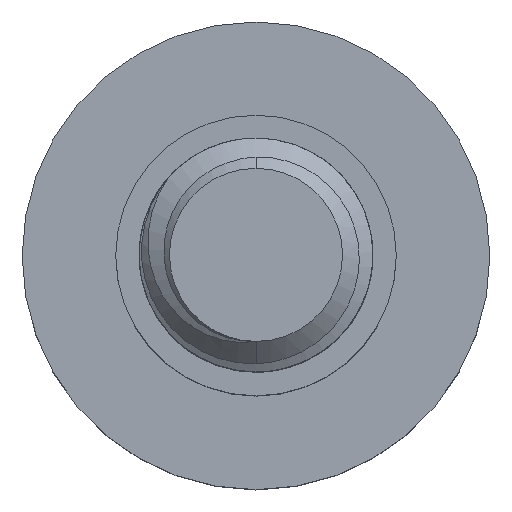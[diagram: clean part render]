
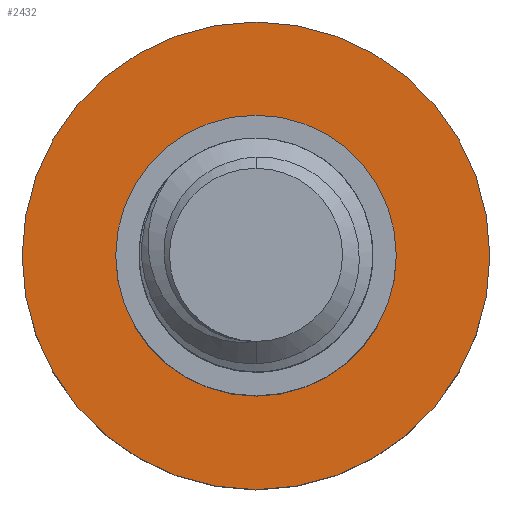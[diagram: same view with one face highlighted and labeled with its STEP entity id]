
A CAD part, top view. The second image highlights one B-rep face of the part: STEP entity #2432.
In plain terms, the highlighted planar face has unit normal (0, 0, 1).
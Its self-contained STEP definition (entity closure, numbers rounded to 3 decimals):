
#43 = CARTESIAN_POINT ( 'NONE',  ( 0., 0., -8. ) ) ;
#62 = DIRECTION ( 'NONE',  ( -1., 0., 0. ) ) ;
#117 = ORIENTED_EDGE ( 'NONE', *, *, #458, .T. ) ;
#345 = VERTEX_POINT ( 'NONE', #2120 ) ;
#349 = DIRECTION ( 'NONE',  ( 0., 0., -1. ) ) ;
#353 = DIRECTION ( 'NONE',  ( 0., 0., -1. ) ) ;
#388 = DIRECTION ( 'NONE',  ( 0., 0., -1. ) ) ;
#458 = EDGE_CURVE ( 'NONE', #345, #701, #1857, .T. ) ;
#584 = FACE_BOUND ( 'NONE', #3082, .T. ) ;
#589 = CARTESIAN_POINT ( 'NONE',  ( 0., 0., -8. ) ) ;
#701 = VERTEX_POINT ( 'NONE', #2311 ) ;
#764 = AXIS2_PLACEMENT_3D ( 'NONE', #1750, #388, #2571 ) ;
#843 = VERTEX_POINT ( 'NONE', #3175 ) ;
#867 = DIRECTION ( 'NONE',  ( -1., 0., 0. ) ) ;
#957 = CARTESIAN_POINT ( 'NONE',  ( 0., 0., -8. ) ) ;
#995 = DIRECTION ( 'NONE',  ( 0., 0., -1. ) ) ;
#1115 = ORIENTED_EDGE ( 'NONE', *, *, #2868, .F. ) ;
#1167 = VERTEX_POINT ( 'NONE', #1597 ) ;
#1188 = DIRECTION ( 'NONE',  ( -1., 0., 0. ) ) ;
#1268 = EDGE_CURVE ( 'NONE', #843, #1167, #2426, .T. ) ;
#1418 = FACE_OUTER_BOUND ( 'NONE', #2346, .T. ) ;
#1597 = CARTESIAN_POINT ( 'NONE',  ( 10., 0., -8. ) ) ;
#1711 = CARTESIAN_POINT ( 'NONE',  ( 0., 0., -8. ) ) ;
#1750 = CARTESIAN_POINT ( 'NONE',  ( 0., 0., -8. ) ) ;
#1773 = AXIS2_PLACEMENT_3D ( 'NONE', #43, #353, #62 ) ;
#1797 = DIRECTION ( 'NONE',  ( -1., 0., 0. ) ) ;
#1857 = CIRCLE ( 'NONE', #764, 6. ) ;
#1882 = EDGE_CURVE ( 'NONE', #701, #345, #3371, .T. ) ;
#2120 = CARTESIAN_POINT ( 'NONE',  ( 6., 0., -8. ) ) ;
#2173 = AXIS2_PLACEMENT_3D ( 'NONE', #957, #995, #1797 ) ;
#2256 = AXIS2_PLACEMENT_3D ( 'NONE', #589, #2554, #1188 ) ;
#2311 = CARTESIAN_POINT ( 'NONE',  ( -6., 0., -8. ) ) ;
#2346 = EDGE_LOOP ( 'NONE', ( #1115, #3172 ) ) ;
#2426 = CIRCLE ( 'NONE', #2256, 10. ) ;
#2432 = ADVANCED_FACE ( 'NONE', ( #584, #1418 ), #2496, .F. ) ;
#2496 = PLANE ( 'NONE',  #1773 ) ;
#2554 = DIRECTION ( 'NONE',  ( 0., 0., -1. ) ) ;
#2571 = DIRECTION ( 'NONE',  ( -1., 0., 0. ) ) ;
#2868 = EDGE_CURVE ( 'NONE', #1167, #843, #3145, .T. ) ;
#3082 = EDGE_LOOP ( 'NONE', ( #3295, #117 ) ) ;
#3085 = AXIS2_PLACEMENT_3D ( 'NONE', #1711, #349, #867 ) ;
#3145 = CIRCLE ( 'NONE', #2173, 10. ) ;
#3172 = ORIENTED_EDGE ( 'NONE', *, *, #1268, .F. ) ;
#3175 = CARTESIAN_POINT ( 'NONE',  ( -10., 0., -8. ) ) ;
#3295 = ORIENTED_EDGE ( 'NONE', *, *, #1882, .T. ) ;
#3371 = CIRCLE ( 'NONE', #3085, 6. ) ;
